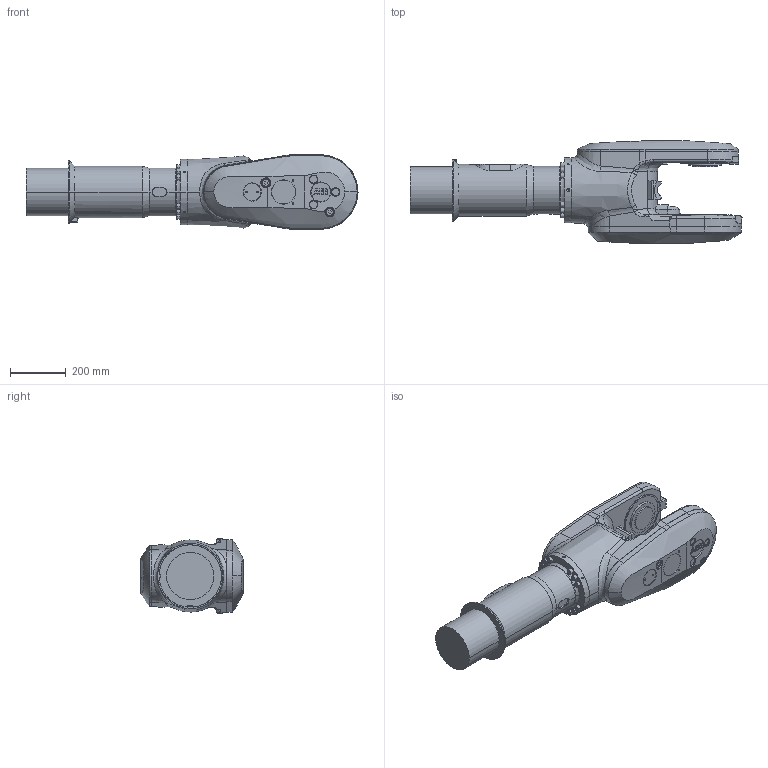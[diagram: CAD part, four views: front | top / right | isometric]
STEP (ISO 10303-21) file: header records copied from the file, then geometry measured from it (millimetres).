
FILE_DESCRIPTION (( 'STEP AP214' ), '1' );
FILE_NAME ('IRB5720-LID_155kg-260_OmniCore_rev00_LINK04_CAD.step', '2025-07-08T11:05:53', ( '' ), ( '' ), 'SwSTEP 2.0', 'SolidWorks 2024', '' );
FILE_SCHEMA (( 'AUTOMOTIVE_DESIGN' ));
Length unit declared in the file: millimetre
Products named in the file (1): IRB5720-LID_155kg-260_OmniCore_rev00_LINK04_CAD
Bounding box: 1190.48 x 368.64 x 267.05 mm (x, y, z)
Volume: 45857254.8 mm3; surface area: 1164618.8 mm2
Topology: 1 solids, 7 shells, 791 faces, 1930 edges, 1221 vertices
Faces by surface type: plane 369, cylinder 210, cone 113, bspline 58, torus 41
Entity records: 33987 total; most frequent: CARTESIAN_POINT 14717, ORIENTED_EDGE 3820, DIRECTION 3424, EDGE_CURVE 1910, AXIS2_PLACEMENT_3D 1239, VERTEX_POINT 1221, VECTOR 946, LINE 946
